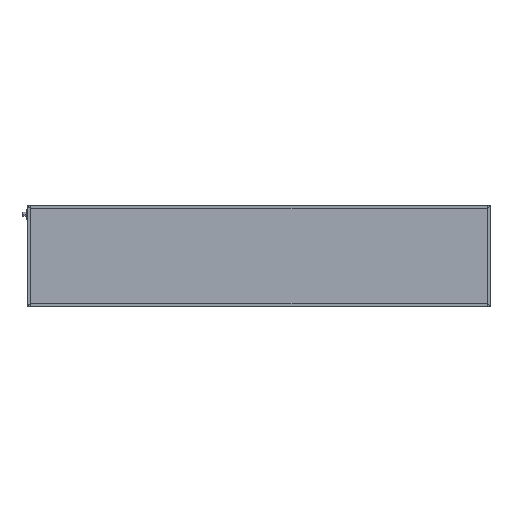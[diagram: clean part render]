
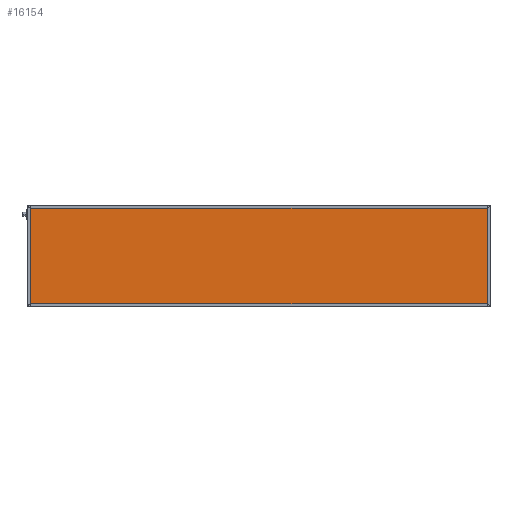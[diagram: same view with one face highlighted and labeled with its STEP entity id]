
A CAD part, top view. The second image highlights one B-rep face of the part: STEP entity #16154.
In plain terms, the highlighted planar face has unit normal (0, 0, 1).
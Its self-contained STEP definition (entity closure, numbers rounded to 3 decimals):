
#928 = CARTESIAN_POINT ( 'NONE',  ( 1396., 4., 41.85 ) ) ;
#978 = VERTEX_POINT ( 'NONE', #16846 ) ;
#1517 = DIRECTION ( 'NONE',  ( 0., 1., 0. ) ) ;
#1539 = CARTESIAN_POINT ( 'NONE',  ( 0., 4., 41.85 ) ) ;
#2280 = VECTOR ( 'NONE', #12248, 1000. ) ;
#2329 = EDGE_CURVE ( 'NONE', #978, #7081, #8110, .T. ) ;
#3264 = VECTOR ( 'NONE', #1517, 1000. ) ;
#5374 = FACE_OUTER_BOUND ( 'NONE', #10930, .T. ) ;
#5458 = DIRECTION ( 'NONE',  ( 0., 0., -1. ) ) ;
#5616 = CARTESIAN_POINT ( 'NONE',  ( 1396., 0., 41.85 ) ) ;
#5645 = VERTEX_POINT ( 'NONE', #12732 ) ;
#5948 = EDGE_CURVE ( 'NONE', #5645, #978, #12968, .T. ) ;
#6281 = ORIENTED_EDGE ( 'NONE', *, *, #14116, .T. ) ;
#6451 = EDGE_CURVE ( 'NONE', #7855, #5645, #8148, .T. ) ;
#6505 = PLANE ( 'NONE',  #8406 ) ;
#6889 = ORIENTED_EDGE ( 'NONE', *, *, #2329, .T. ) ;
#6944 = LINE ( 'NONE', #1539, #2280 ) ;
#7081 = VERTEX_POINT ( 'NONE', #16279 ) ;
#7452 = ORIENTED_EDGE ( 'NONE', *, *, #5948, .T. ) ;
#7781 = CARTESIAN_POINT ( 'NONE',  ( 4., 0., 41.85 ) ) ;
#7855 = VERTEX_POINT ( 'NONE', #928 ) ;
#8110 = LINE ( 'NONE', #7781, #13805 ) ;
#8148 = LINE ( 'NONE', #5616, #3264 ) ;
#8406 = AXIS2_PLACEMENT_3D ( 'NONE', #10679, #5458, #17125 ) ;
#8969 = DIRECTION ( 'NONE',  ( -1., 0., 0. ) ) ;
#10679 = CARTESIAN_POINT ( 'NONE',  ( 0., 0., 41.85 ) ) ;
#10930 = EDGE_LOOP ( 'NONE', ( #12855, #7452, #6889, #6281 ) ) ;
#12248 = DIRECTION ( 'NONE',  ( 1., 0., 0. ) ) ;
#12732 = CARTESIAN_POINT ( 'NONE',  ( 1396., 296., 41.85 ) ) ;
#12855 = ORIENTED_EDGE ( 'NONE', *, *, #6451, .T. ) ;
#12968 = LINE ( 'NONE', #13064, #14679 ) ;
#13064 = CARTESIAN_POINT ( 'NONE',  ( 0., 296., 41.85 ) ) ;
#13805 = VECTOR ( 'NONE', #14721, 1000. ) ;
#14116 = EDGE_CURVE ( 'NONE', #7081, #7855, #6944, .T. ) ;
#14679 = VECTOR ( 'NONE', #8969, 1000. ) ;
#14721 = DIRECTION ( 'NONE',  ( 0., -1., 0. ) ) ;
#16154 = ADVANCED_FACE ( 'NONE', ( #5374 ), #6505, .F. ) ;
#16279 = CARTESIAN_POINT ( 'NONE',  ( 4., 4., 41.85 ) ) ;
#16846 = CARTESIAN_POINT ( 'NONE',  ( 4., 296., 41.85 ) ) ;
#17125 = DIRECTION ( 'NONE',  ( -1., 0., 0. ) ) ;
